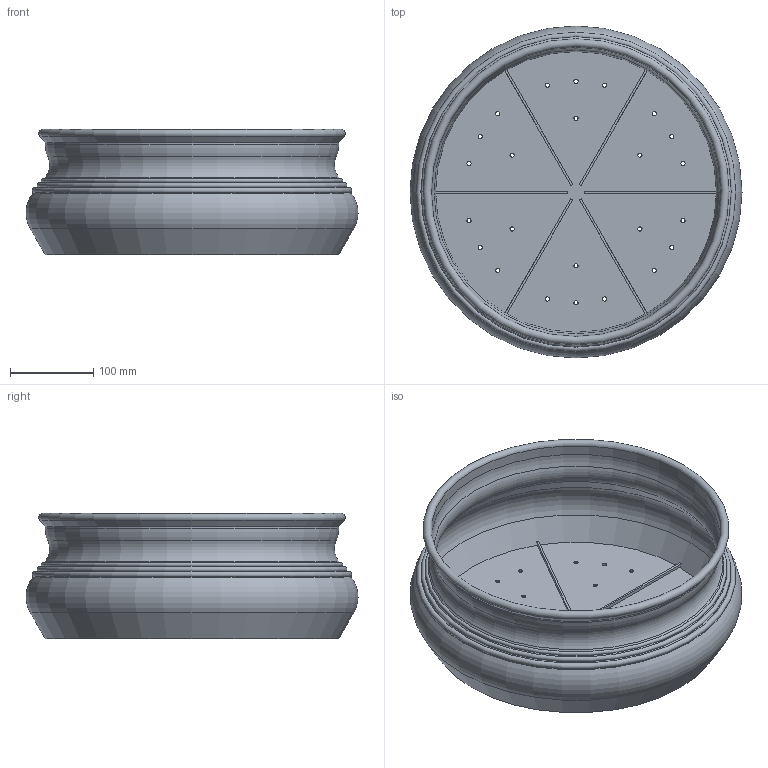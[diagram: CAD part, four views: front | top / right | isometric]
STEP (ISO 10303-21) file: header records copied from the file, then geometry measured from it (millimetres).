
FILE_DESCRIPTION(/* description */ (''),/* implementation_level */ '2;1');
FILE_NAME(/* name */ 'LR2406-S25-H150-D400_step.step',/* time_stamp */ '2024-02-01T11:00:00+01:00',/* author */ (''),/* organization */ (''),/* preprocessor_version */ 'ST-DEVELOPER v20',/* originating_system */ 'Autodesk Translation Framework v12.20.1.177',/* authorisation */ '');
FILE_SCHEMA (('AUTOMOTIVE_DESIGN { 1 0 10303 214 3 1 1 }'));
Length unit declared in the file: millimetre
Products named in the file (1): LR2406-S25-H150-D400
Bounding box: 397.99 x 397.99 x 150 mm (x, y, z)
Volume: 791344 mm3; surface area: 595004 mm2
Topology: 1 solids, 1 shells, 70 faces, 185 edges, 117 vertices
Faces by surface type: cylinder 32, plane 20, torus 10, cone 8
Full cylindrical faces by diameter (mm): 5 x24, 347 x1, 352 x1
Entity records: 2336 total; most frequent: DIRECTION 430, CARTESIAN_POINT 373, ORIENTED_EDGE 370, EDGE_CURVE 185, AXIS2_PLACEMENT_3D 174, EDGE_LOOP 118, VERTEX_POINT 117, CIRCLE 103
